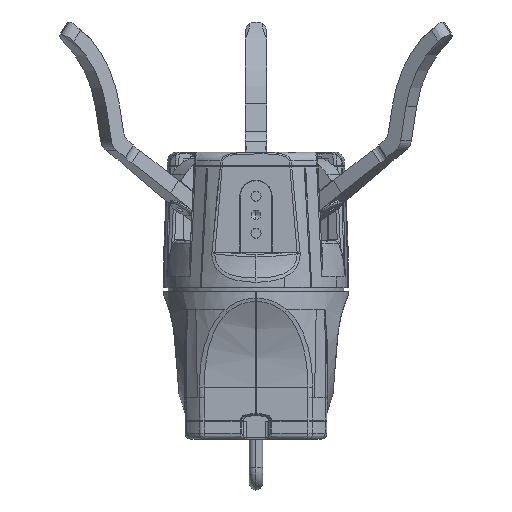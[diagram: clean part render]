
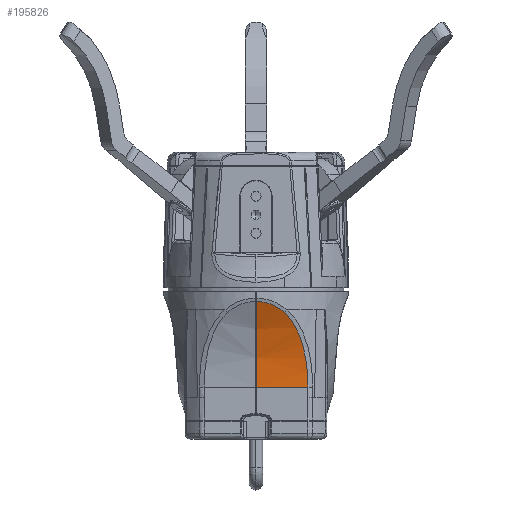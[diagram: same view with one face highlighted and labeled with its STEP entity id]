
A CAD part, front view. The second image highlights one B-rep face of the part: STEP entity #195826.
In plain terms, the highlighted cylindrical face has radius 60.903 mm (diameter 121.806 mm), a partial arc.
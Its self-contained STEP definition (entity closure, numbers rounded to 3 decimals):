
#1336 = DIRECTION ( 'NONE',  ( 1., 0., 0. ) ) ;
#2194 = ORIENTED_EDGE ( 'NONE', *, *, #155648, .F. ) ;
#13187 = CARTESIAN_POINT ( 'NONE',  ( 0.25, -29.689, 10.999 ) ) ;
#14266 = EDGE_LOOP ( 'NONE', ( #195053, #95820, #98413, #2194 ) ) ;
#14394 = CARTESIAN_POINT ( 'NONE',  ( 16.822, -23., -15.804 ) ) ;
#15825 = CARTESIAN_POINT ( 'NONE',  ( 8.803, -28.171, 7.813 ) ) ;
#18039 = VECTOR ( 'NONE', #105525, 1000. ) ;
#31314 = CARTESIAN_POINT ( 'NONE',  ( 7.907, -28.497, 8.543 ) ) ;
#33414 = CARTESIAN_POINT ( 'NONE',  ( 13.685, -25.648, 1.053 ) ) ;
#54109 = CARTESIAN_POINT ( 'NONE',  ( 16.797, -23.042, -14.01 ) ) ;
#56732 = CARTESIAN_POINT ( 'NONE',  ( 9.701, -27.812, 6.981 ) ) ;
#69560 = LINE ( 'NONE', #208275, #18039 ) ;
#71120 = CARTESIAN_POINT ( 'NONE',  ( 16.815, -83.903, -16.75 ) ) ;
#75709 = CARTESIAN_POINT ( 'NONE',  ( 15.152, -24.559, -3.001 ) ) ;
#77587 = VERTEX_POINT ( 'NONE', #123086 ) ;
#78605 = CYLINDRICAL_SURFACE ( 'NONE', #108987, 60.903 ) ;
#92559 = CARTESIAN_POINT ( 'NONE',  ( 1.737, -29.649, 10.921 ) ) ;
#94305 = CARTESIAN_POINT ( 'NONE',  ( 16.811, -23., -16.75 ) ) ;
#95820 = ORIENTED_EDGE ( 'NONE', *, *, #118749, .F. ) ;
#98169 = CARTESIAN_POINT ( 'NONE',  ( 15.672, -24.123, -5.049 ) ) ;
#98413 = ORIENTED_EDGE ( 'NONE', *, *, #101376, .F. ) ;
#101376 = EDGE_CURVE ( 'NONE', #77587, #167604, #212540, .T. ) ;
#105525 = DIRECTION ( 'NONE',  ( -1., 0., 0. ) ) ;
#108987 = AXIS2_PLACEMENT_3D ( 'NONE', #71120, #114344, #193607 ) ;
#114344 = DIRECTION ( 'NONE',  ( -1., 0., 0. ) ) ;
#118749 = EDGE_CURVE ( 'NONE', #167604, #252938, #121954, .T. ) ;
#121188 = CARTESIAN_POINT ( 'NONE',  ( 9.229, -28.001, 7.418 ) ) ;
#121954 = B_SPLINE_CURVE_WITH_KNOTS ( 'NONE', 3,
 ( #218882, #56732, #199113, #261263, #259476, #33414, #178399, #75709, #98169, #242291, #159467, #260361, #54109, #14394, #220649 ),
 .UNSPECIFIED., .F., .F.,
 ( 4, 1, 1, 1, 1, 1, 1, 1, 1, 1, 1, 1, 4 ),
 ( 0., 0.076, 0.15, 0.225, 0.306, 0.391, 0.476, 0.557, 0.634, 0.713, 0.798, 0.894, 1. ),
 .UNSPECIFIED. ) ;
#123086 = CARTESIAN_POINT ( 'NONE',  ( 0.25, -29.689, 10.999 ) ) ;
#123256 = CARTESIAN_POINT ( 'NONE',  ( 9.229, -28.001, 7.418 ) ) ;
#155648 = EDGE_CURVE ( 'NONE', #213696, #77587, #171677, .T. ) ;
#157350 = CARTESIAN_POINT ( 'NONE',  ( 0.717, -29.685, 10.991 ) ) ;
#159467 = CARTESIAN_POINT ( 'NONE',  ( 16.397, -23.459, -9.181 ) ) ;
#162357 = FACE_OUTER_BOUND ( 'NONE', #14266, .T. ) ;
#167604 = VERTEX_POINT ( 'NONE', #123256 ) ;
#171677 = CIRCLE ( 'NONE', #232623, 60.903 ) ;
#175402 = CARTESIAN_POINT ( 'NONE',  ( 4.889, -29.26, 10.147 ) ) ;
#178399 = CARTESIAN_POINT ( 'NONE',  ( 14.489, -25.075, -0.939 ) ) ;
#178914 = CARTESIAN_POINT ( 'NONE',  ( 0.25, -23., -16.75 ) ) ;
#184289 = CARTESIAN_POINT ( 'NONE',  ( 0.25, -83.903, -16.75 ) ) ;
#193607 = DIRECTION ( 'NONE',  ( 0., 0., -1. ) ) ;
#195053 = ORIENTED_EDGE ( 'NONE', *, *, #240852, .F. ) ;
#195826 = ADVANCED_FACE ( 'NONE', ( #162357 ), #78605, .F. ) ;
#199113 = CARTESIAN_POINT ( 'NONE',  ( 10.577, -27.426, 6.062 ) ) ;
#208275 = CARTESIAN_POINT ( 'NONE',  ( 16.811, -23., -16.75 ) ) ;
#212540 =( BOUNDED_CURVE ( )  B_SPLINE_CURVE ( 3, ( #13187, #157350, #92559, #236584, #175402, #257379, #31314, #15825, #121188 ),
 .UNSPECIFIED., .F., .F. ) 
 B_SPLINE_CURVE_WITH_KNOTS ( ( 4, 1, 1, 1, 1, 1, 4 ),
 ( 0., 0.139, 0.304, 0.471, 0.642, 0.819, 1. ),
 .UNSPECIFIED. ) 
 CURVE ( )  GEOMETRIC_REPRESENTATION_ITEM ( )  RATIONAL_B_SPLINE_CURVE ( ( 1.015, 1.015, 1.015, 1.015, 1.015, 1.015, 1.015, 1.015, 1.015 ) ) 
 REPRESENTATION_ITEM ( '' )  );
#213696 = VERTEX_POINT ( 'NONE', #178914 ) ;
#218882 = CARTESIAN_POINT ( 'NONE',  ( 9.229, -28.001, 7.418 ) ) ;
#220649 = CARTESIAN_POINT ( 'NONE',  ( 16.811, -23., -16.75 ) ) ;
#232623 = AXIS2_PLACEMENT_3D ( 'NONE', #184289, #1336, #249107 ) ;
#236584 = CARTESIAN_POINT ( 'NONE',  ( 3.289, -29.506, 10.641 ) ) ;
#240852 = EDGE_CURVE ( 'NONE', #252938, #213696, #69560, .T. ) ;
#242291 = CARTESIAN_POINT ( 'NONE',  ( 16.078, -23.761, -7.08 ) ) ;
#249107 = DIRECTION ( 'NONE',  ( 0., 0., -1. ) ) ;
#252938 = VERTEX_POINT ( 'NONE', #94305 ) ;
#257379 = CARTESIAN_POINT ( 'NONE',  ( 6.437, -28.92, 9.448 ) ) ;
#259476 = CARTESIAN_POINT ( 'NONE',  ( 12.763, -26.243, 2.888 ) ) ;
#260361 = CARTESIAN_POINT ( 'NONE',  ( 16.641, -23.214, -11.464 ) ) ;
#261263 = CARTESIAN_POINT ( 'NONE',  ( 11.734, -26.837, 4.546 ) ) ;
